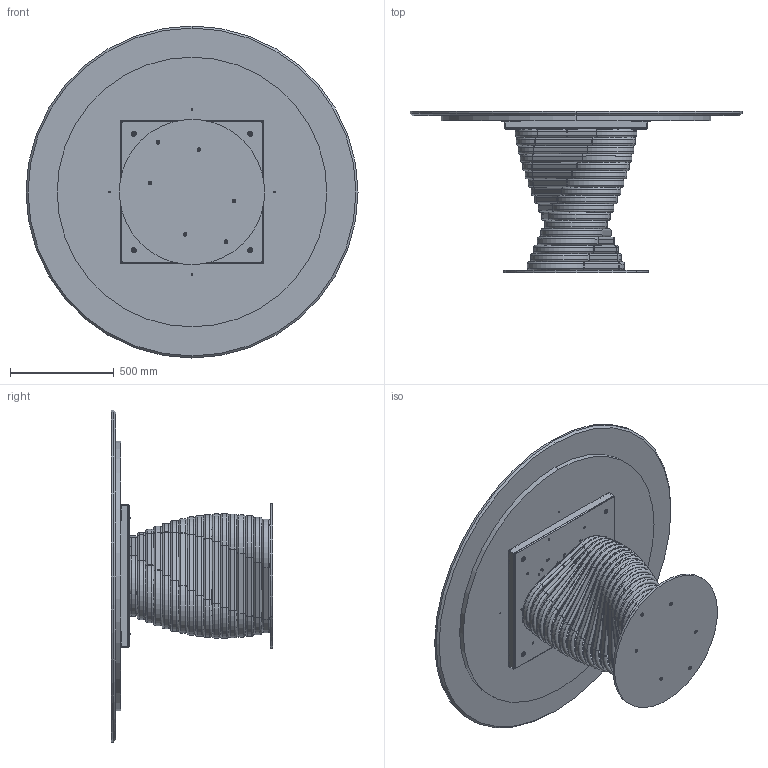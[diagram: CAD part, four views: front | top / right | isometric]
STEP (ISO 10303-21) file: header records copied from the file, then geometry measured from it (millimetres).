
FILE_DESCRIPTION (( 'STEP AP203' ), '1' );
FILE_NAME ('RO08M.STEP', '2024-08-07T13:11:11', ( '' ), ( '' ), 'SwSTEP 2.0', 'SolidWorks 2022', '' );
FILE_SCHEMA (( 'CONFIG_CONTROL_DESIGN' ));
Length unit declared in the file: millimetre
Products named in the file (17): ROBX00000MED-00-Anello rotolo MEDIO_Default<A macchina>; ROBX00000INF-00-Anello rotolo INFERIORE_Default<A macchina>; ROBX00000-00-ROTOLO BASE 17 ANELLI; TTAV0801 TELAIO UNIVERSALE TONDO-PIASTRINA; rondella M8_8X24; M8xXXmm_hex_M8X20mm; TRU0000X-00-SOTTO PIANO D.XXXXmm_TRU00001 d.130cm; TTAV0801-02-TELAIO UNIVERSALE TONDO; RO08M; COLLO TELAIO UNIVERSALE TTAV0801 CON FERRAMENTA_MTG TOP LEGNO-MARMO-KING; TTAV0801-02-TELAIO UNIVERSALE TONDO-VASSOIO; ROBX00000SUP-00-Anello rotolo SUPERIORE_Default<A macchina>; M8xXXmm_M8x20mm; M0XMXX-00-Piani Rotondi in marmo 2024_1600; M0X-00- D. piani marmo_D.1600; M8xXXmm_M8x55mm; ROB200000-00-PIASTRA BASE_Ø70cm
Assembly tree (51 placements, depth 4):
  RO08M
    ROB200000-00-PIASTRA BASE_Ø70cm
    ROBX00000-00-ROTOLO BASE 17 ANELLI
      ROBX00000INF-00-Anello rotolo INFERIORE_Default<A macchina>
      ROBX00000MED-00-Anello rotolo MEDIO_Default<A macchina>  x15
      ROBX00000SUP-00-Anello rotolo SUPERIORE_Default<A macchina>
    M8xXXmm_hex_M8X20mm  x6
    COLLO TELAIO UNIVERSALE TTAV0801 CON FERRAMENTA_MTG TOP LEGNO-MARMO-KING
      TTAV0801-02-TELAIO UNIVERSALE TONDO
        TTAV0801-02-TELAIO UNIVERSALE TONDO-VASSOIO
        TTAV0801 TELAIO UNIVERSALE TONDO-PIASTRINA  x4
      rondella M8_8X24  x4
      M8xXXmm_M8x55mm  x4
    rondella M8_8X24  x4
    M8xXXmm_M8x20mm  x4
    M0XMXX-00-Piani Rotondi in marmo 2024_1600
      M0X-00- D. piani marmo_D.1600
      TRU0000X-00-SOTTO PIANO D.XXXXmm_TRU00001 d.130cm
Bounding box: 1600 x 777 x 1600 mm (x, y, z)
Volume: 84951745.9 mm3; surface area: 13735494.1 mm2
Topology: 98 solids, 98 shells, 1802 faces, 4390 edges, 2755 vertices
Faces by surface type: plane 744, cylinder 656, torus 244, cone 158
Entity records: 24288 total; most frequent: CARTESIAN_POINT 5308, DIRECTION 3537, ORIENTED_EDGE 3290, EDGE_CURVE 1645, AXIS2_PLACEMENT_3D 1313, VERTEX_POINT 1054, VECTOR 911, LINE 911
